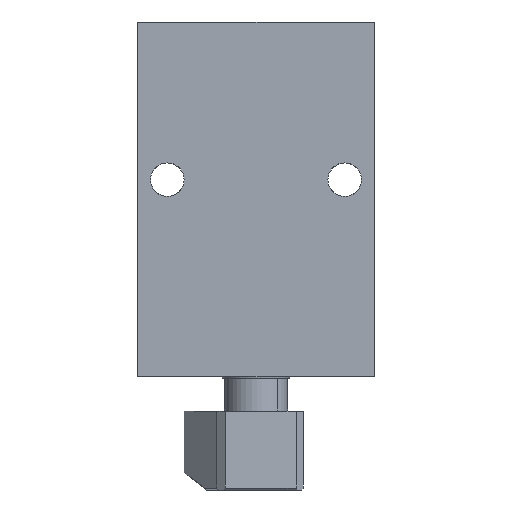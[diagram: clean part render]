
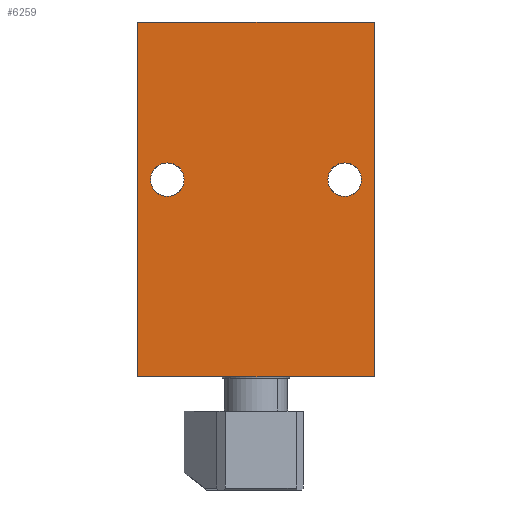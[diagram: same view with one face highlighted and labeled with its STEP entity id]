
A CAD part, front view. The second image highlights one B-rep face of the part: STEP entity #6259.
In plain terms, the highlighted planar face has unit normal (0, -1, 0).
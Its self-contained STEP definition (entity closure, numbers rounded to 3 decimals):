
#711 = ORIENTED_EDGE ( 'NONE', *, *, #21849, .T. ) ;
#976 = LINE ( 'NONE', #2476, #20330 ) ;
#990 = DIRECTION ( 'NONE',  ( 0., 1., 0. ) ) ;
#1008 = DIRECTION ( 'NONE',  ( 0., 0., -1. ) ) ;
#1202 = DIRECTION ( 'NONE',  ( 0., 1., 0. ) ) ;
#1504 = CARTESIAN_POINT ( 'NONE',  ( 0., 0., 0. ) ) ;
#1704 = DIRECTION ( 'NONE',  ( 0., 1., 0. ) ) ;
#1833 = ORIENTED_EDGE ( 'NONE', *, *, #28239, .F. ) ;
#2476 = CARTESIAN_POINT ( 'NONE',  ( 0., 0., 90. ) ) ;
#2510 = EDGE_LOOP ( 'NONE', ( #14439, #22067 ) ) ;
#2761 = EDGE_CURVE ( 'NONE', #11694, #6499, #10403, .T. ) ;
#2896 = AXIS2_PLACEMENT_3D ( 'NONE', #13096, #1704, #10862 ) ;
#2932 = EDGE_CURVE ( 'NONE', #13338, #20976, #2949, .T. ) ;
#2949 = CIRCLE ( 'NONE', #2896, 4.25 ) ;
#2954 = ORIENTED_EDGE ( 'NONE', *, *, #14493, .T. ) ;
#3676 = CARTESIAN_POINT ( 'NONE',  ( 52.5, 0., 54.25 ) ) ;
#3852 = DIRECTION ( 'NONE',  ( 1., 0., 0. ) ) ;
#3904 = CIRCLE ( 'NONE', #16585, 4.25 ) ;
#4471 = DIRECTION ( 'NONE',  ( 0., 1., 0. ) ) ;
#4507 = VERTEX_POINT ( 'NONE', #15433 ) ;
#4878 = VERTEX_POINT ( 'NONE', #10419 ) ;
#5020 = VERTEX_POINT ( 'NONE', #23969 ) ;
#5462 = EDGE_CURVE ( 'NONE', #20976, #13338, #17929, .T. ) ;
#6259 = ADVANCED_FACE ( 'NONE', ( #20393, #17906, #13017 ), #21434, .F. ) ;
#6499 = VERTEX_POINT ( 'NONE', #19380 ) ;
#7337 = DIRECTION ( 'NONE',  ( 0., 0., -1. ) ) ;
#7708 = CARTESIAN_POINT ( 'NONE',  ( 52.5, 0., 50. ) ) ;
#7908 = CARTESIAN_POINT ( 'NONE',  ( 0., 0., 90. ) ) ;
#7996 = CARTESIAN_POINT ( 'NONE',  ( 0., 0., 90. ) ) ;
#9767 = AXIS2_PLACEMENT_3D ( 'NONE', #7996, #1202, #12512 ) ;
#9946 = DIRECTION ( 'NONE',  ( 0., 0., 1. ) ) ;
#10329 = AXIS2_PLACEMENT_3D ( 'NONE', #23506, #990, #9946 ) ;
#10403 = LINE ( 'NONE', #23817, #13544 ) ;
#10419 = CARTESIAN_POINT ( 'NONE',  ( 60., 0., 90. ) ) ;
#10663 = VERTEX_POINT ( 'NONE', #18414 ) ;
#10807 = LINE ( 'NONE', #16679, #16693 ) ;
#10862 = DIRECTION ( 'NONE',  ( 0., 0., 1. ) ) ;
#11255 = DIRECTION ( 'NONE',  ( 0., 0., 1. ) ) ;
#11694 = VERTEX_POINT ( 'NONE', #7908 ) ;
#12512 = DIRECTION ( 'NONE',  ( 0., 0., 1. ) ) ;
#13017 = FACE_OUTER_BOUND ( 'NONE', #22216, .T. ) ;
#13096 = CARTESIAN_POINT ( 'NONE',  ( 52.5, 0., 50. ) ) ;
#13338 = VERTEX_POINT ( 'NONE', #21539 ) ;
#13544 = VECTOR ( 'NONE', #1008, 1000. ) ;
#14439 = ORIENTED_EDGE ( 'NONE', *, *, #5462, .T. ) ;
#14493 = EDGE_CURVE ( 'NONE', #6499, #10663, #28857, .T. ) ;
#15188 = CIRCLE ( 'NONE', #10329, 4.25 ) ;
#15285 = ORIENTED_EDGE ( 'NONE', *, *, #27816, .T. ) ;
#15433 = CARTESIAN_POINT ( 'NONE',  ( 7.5, 0., 54.25 ) ) ;
#15446 = EDGE_LOOP ( 'NONE', ( #711, #15285 ) ) ;
#15666 = DIRECTION ( 'NONE',  ( 1., 0., 0. ) ) ;
#15674 = CARTESIAN_POINT ( 'NONE',  ( 7.5, 0., 50. ) ) ;
#16585 = AXIS2_PLACEMENT_3D ( 'NONE', #15674, #4471, #11255 ) ;
#16679 = CARTESIAN_POINT ( 'NONE',  ( 60., 0., 90. ) ) ;
#16693 = VECTOR ( 'NONE', #7337, 1000. ) ;
#16850 = DIRECTION ( 'NONE',  ( 0., 0., 1. ) ) ;
#17906 = FACE_BOUND ( 'NONE', #15446, .T. ) ;
#17929 = CIRCLE ( 'NONE', #21013, 4.25 ) ;
#18414 = CARTESIAN_POINT ( 'NONE',  ( 60., 0., 0. ) ) ;
#19380 = CARTESIAN_POINT ( 'NONE',  ( 0., 0., 0. ) ) ;
#20316 = ORIENTED_EDGE ( 'NONE', *, *, #23477, .F. ) ;
#20330 = VECTOR ( 'NONE', #15666, 1000. ) ;
#20393 = FACE_BOUND ( 'NONE', #2510, .T. ) ;
#20976 = VERTEX_POINT ( 'NONE', #3676 ) ;
#21013 = AXIS2_PLACEMENT_3D ( 'NONE', #7708, #23449, #16850 ) ;
#21434 = PLANE ( 'NONE',  #9767 ) ;
#21539 = CARTESIAN_POINT ( 'NONE',  ( 52.5, 0., 45.75 ) ) ;
#21849 = EDGE_CURVE ( 'NONE', #4507, #5020, #3904, .T. ) ;
#22067 = ORIENTED_EDGE ( 'NONE', *, *, #2932, .T. ) ;
#22216 = EDGE_LOOP ( 'NONE', ( #2954, #1833, #20316, #25164 ) ) ;
#23449 = DIRECTION ( 'NONE',  ( 0., 1., 0. ) ) ;
#23477 = EDGE_CURVE ( 'NONE', #11694, #4878, #976, .T. ) ;
#23506 = CARTESIAN_POINT ( 'NONE',  ( 7.5, 0., 50. ) ) ;
#23817 = CARTESIAN_POINT ( 'NONE',  ( 0., 0., 90. ) ) ;
#23969 = CARTESIAN_POINT ( 'NONE',  ( 7.5, 0., 45.75 ) ) ;
#25164 = ORIENTED_EDGE ( 'NONE', *, *, #2761, .T. ) ;
#26423 = VECTOR ( 'NONE', #3852, 1000. ) ;
#27816 = EDGE_CURVE ( 'NONE', #5020, #4507, #15188, .T. ) ;
#28239 = EDGE_CURVE ( 'NONE', #4878, #10663, #10807, .T. ) ;
#28857 = LINE ( 'NONE', #1504, #26423 ) ;
